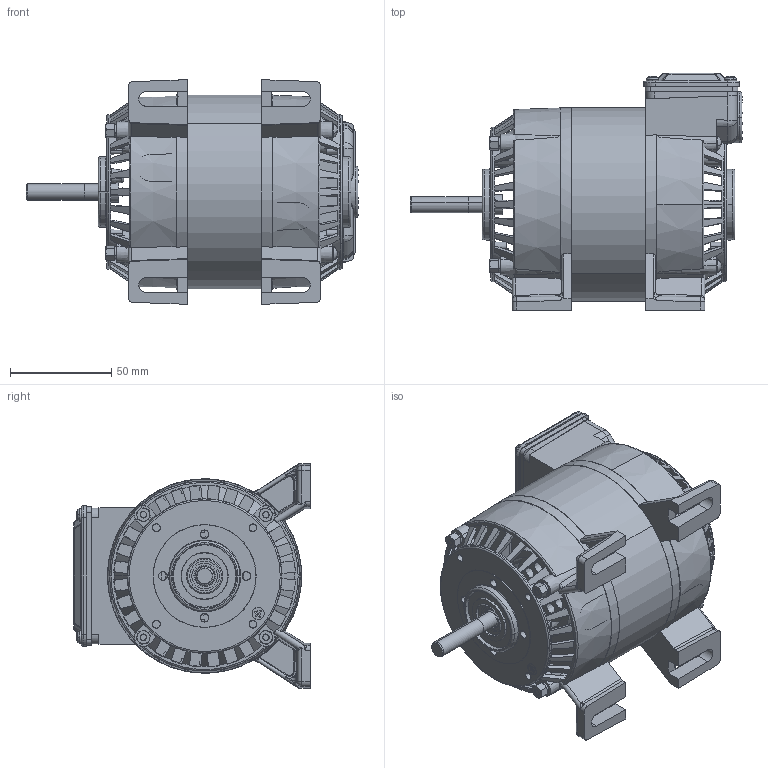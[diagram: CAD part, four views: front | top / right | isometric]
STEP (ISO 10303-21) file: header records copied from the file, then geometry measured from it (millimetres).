
FILE_DESCRIPTION (( 'STEP AP214' ), '1' );
FILE_NAME ('SD38.STEP', '2021-07-07T15:36:42', ( '' ), ( '' ), 'SwSTEP 2.0', 'SolidWorks 2020', '' );
FILE_SCHEMA (( 'AUTOMOTIVE_DESIGN' ));
Length unit declared in the file: millimetre
Products named in the file (1): SD38
Bounding box: 164.27 x 117.26 x 111.12 mm (x, y, z)
Surface area: 131781.4 mm2 (no closed solid volume)
Topology: 0 solids, 65 shells, 1232 faces, 4070 edges, 2808 vertices
Faces by surface type: plane 457, cylinder 274, cone 269, bspline 138, torus 56, sphere 38
Entity records: 75782 total; most frequent: CARTESIAN_POINT 29078, ORIENTED_EDGE 6809, DIRECTION 6410, EDGE_CURVE 4052, VERTEX_POINT 2820, AXIS2_PLACEMENT_3D 2476, LINE 1458, VECTOR 1458
